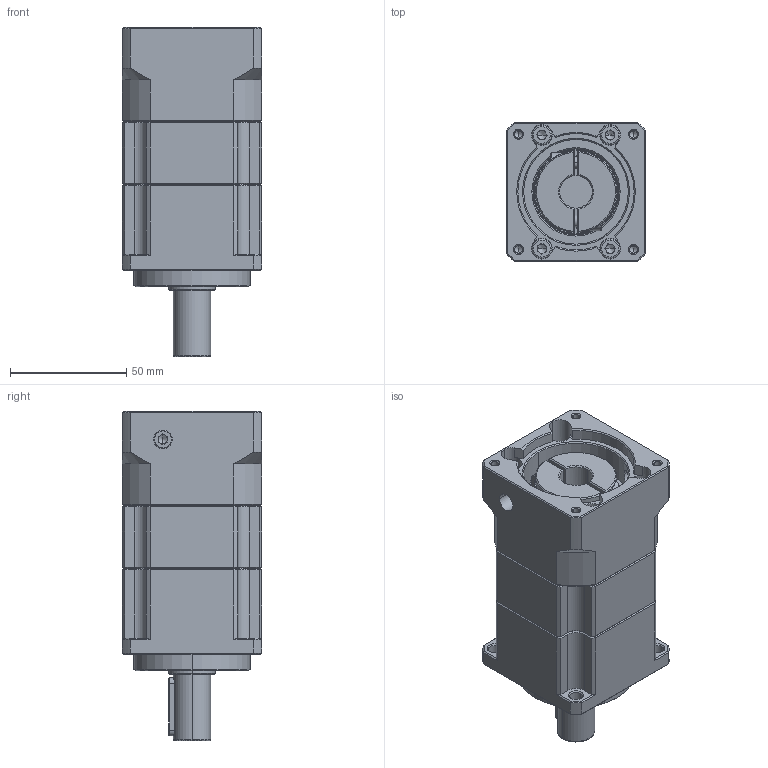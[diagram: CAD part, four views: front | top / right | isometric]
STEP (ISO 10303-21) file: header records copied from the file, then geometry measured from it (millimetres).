
FILE_DESCRIPTION (( 'STEP AP214' ), '1' );
FILE_NAME ('ZPB060-D16-L2-P1-14-50-70-M4.step', '2024-04-23T15:41:46', ( 'Windows 蚚誧' ), ( 'Organization' ), 'SwSTEP 2.0', 'SolidWorks 2016', '' );
FILE_SCHEMA (( 'AUTOMOTIVE_DESIGN' ));
Length unit declared in the file: millimetre
Products named in the file (1): ZPB060-D16-L2-P1-14-50-70-M4
Bounding box: 60 x 60 x 141.5 mm (x, y, z)
Volume: 319313.2 mm3; surface area: 75067.7 mm2
Topology: 14 solids, 22 shells, 2005 faces, 5618 edges, 3629 vertices
Faces by surface type: plane 1051, bspline 373, cylinder 271, cone 172, torus 92, sphere 46
Entity records: 105283 total; most frequent: CARTESIAN_POINT 35111, ORIENTED_EDGE 10930, DIRECTION 8388, EDGE_CURVE 5465, VERTEX_POINT 3560, LINE 3314, VECTOR 3314, AXIS2_PLACEMENT_3D 2537
